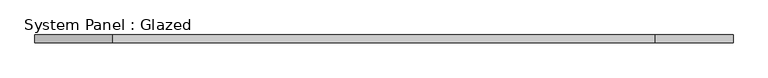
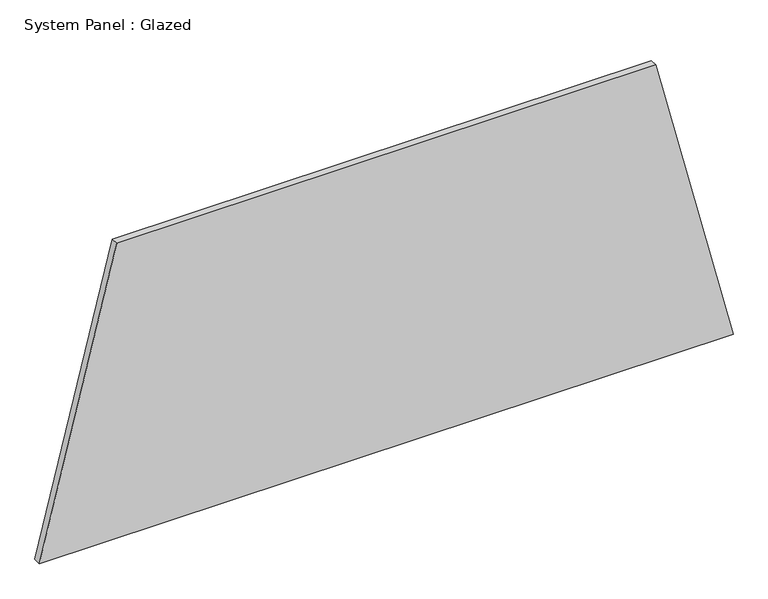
"""IFC4 building model written with IfcOpenShell, lengths in millimetres: plate geometry, System Panel : Glazed."""

from ifc_helpers import new_model, si_unit, frame, origin, place, context, project, spatial, polyline, outline, extrude, source, transform, mapped, element, save


def system_panel_glazed_db51fd20(model_context):
    return source(origin(), model_context, "Body", "SweptSolid", [
        extrude(outline(polyline([(0.0, -1152.3500528), (0.0, 1152.3500528), (1035.3734653, 895.3208184), (1035.3734653, -895.3208184), (0.0, -1152.3500528)])), frame((0.0, -44.45, 0.0), z_axis=(0.0, 1.0, 0.0), x_axis=(0.0, 0.0, 1.0)), (0.0, 0.0, 1.0), 25.4),
    ])


if __name__ == "__main__":
    model = new_model("IFC4")
    model_context = context("Model", 3, world=origin())
    ifc_project = project(units=[si_unit("LENGTHUNIT", "METRE", prefix="MILLI")], contexts=[model_context])
    site = spatial("IfcSite", under=ifc_project)
    building = spatial("IfcBuilding", under=site)
    placement = place(None, origin())
    system_panel_glazed_shape = system_panel_glazed_db51fd20(model_context)
    element("IfcPlate", 1, ObjectType="System Panel : Glazed", at=placement, inside=building, context=model_context, shape_type="MappedRepresentation", body=[
        mapped(system_panel_glazed_shape, transform((0.0, 0.0, 0.0), x_axis=(1.0, 0.0, 0.0), y_axis=(0.0, 1.0, 0.0), z_axis=(0.0, 0.0, 1.0))),
    ])
    save(model, "model.ifc")
